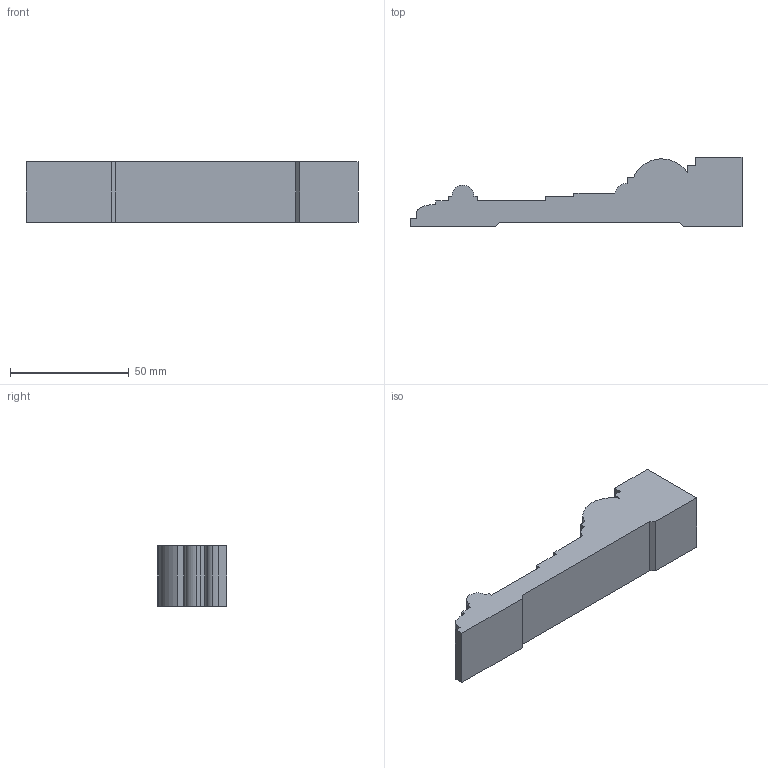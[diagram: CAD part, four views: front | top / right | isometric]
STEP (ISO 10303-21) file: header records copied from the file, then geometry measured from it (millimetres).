
FILE_DESCRIPTION (( 'STEP AP203' ), '1' );
FILE_NAME ('AB134-5FJ.STEP', '2023-08-25T14:15:57', ( '' ), ( '' ), 'SwSTEP 2.0', 'SolidWorks 2020', '' );
FILE_SCHEMA (( 'CONFIG_CONTROL_DESIGN' ));
Length unit declared in the file: inch
Products named in the file (1): AB134-5FJ
Bounding box: 139.7 x 29.36 x 25.4 mm (x, y, z)
Volume: 58815.9 mm3; surface area: 13466.3 mm2
Topology: 1 solids, 1 shells, 34 faces, 96 edges, 64 vertices
Faces by surface type: plane 28, cylinder 6
Entity records: 1171 total; most frequent: CARTESIAN_POINT 195, ORIENTED_EDGE 192, DIRECTION 178, EDGE_CURVE 96, LINE 84, VECTOR 84, VERTEX_POINT 64, AXIS2_PLACEMENT_3D 47
